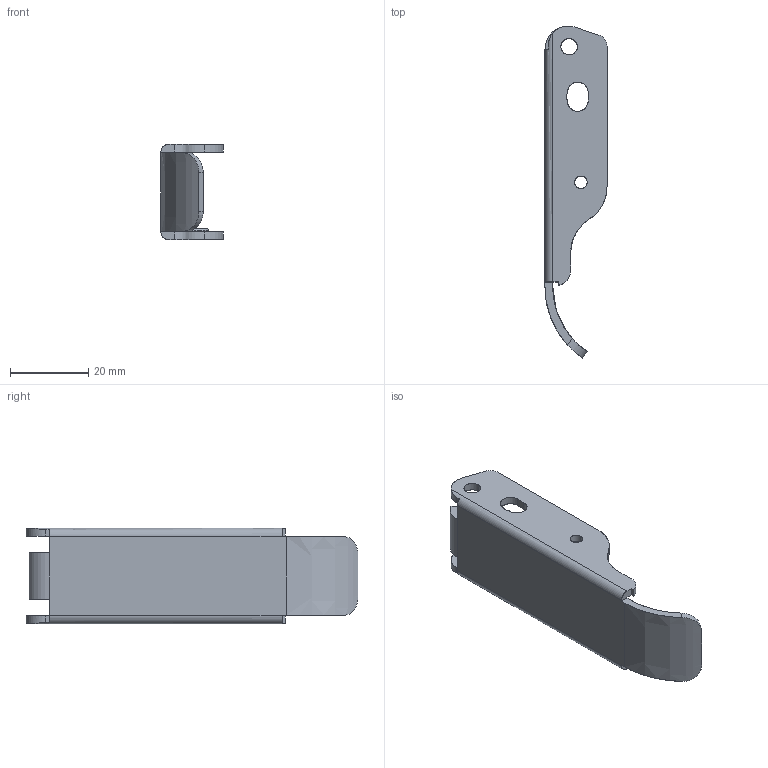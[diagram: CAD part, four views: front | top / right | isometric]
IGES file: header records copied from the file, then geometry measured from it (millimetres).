
Start section: SolidWorks IGES FILE using analytic representation for surfaces
Global section: file name: C:\Documents and Settings\lecoutey\Bureau\GP 1047\1047.010.10.IGS; native system: SolidWorks 2004 by SolidWorks Corporation; preprocessor: Version 5.3; author: lecoutey; date: 050329.154239; units: millimetre
Bounding box: 15.9 x 84.96 x 24.4 mm (x, y, z)
Surface area: 7284.9 mm2 (no closed solid volume)
Topology: 0 solids, 0 shells, 78 faces, 1289 edges, 1289 vertices
Faces by surface type: bspline 42, revolution 36
